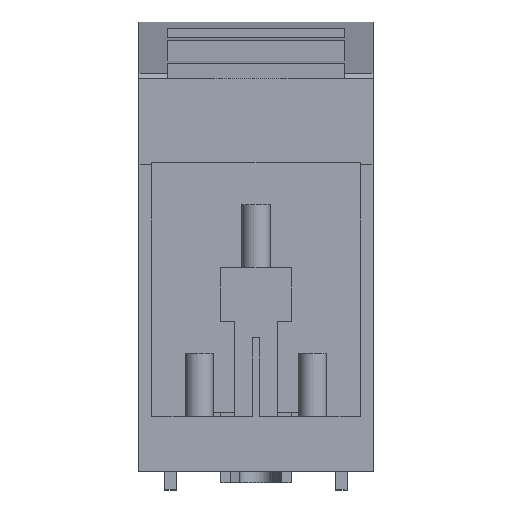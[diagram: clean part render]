
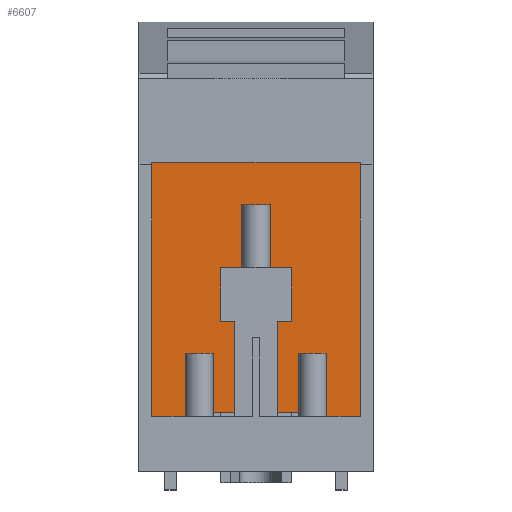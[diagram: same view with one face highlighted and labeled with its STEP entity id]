
A CAD part, front view. The second image highlights one B-rep face of the part: STEP entity #6607.
In plain terms, the highlighted planar face has unit normal (0, -1, 0).
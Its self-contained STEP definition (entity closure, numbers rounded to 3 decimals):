
#1 = CARTESIAN_POINT ( 'NONE',  ( -9., -233., 31.5 ) ) ;
#23 = LINE ( 'NONE', #439, #4846 ) ;
#42 = LINE ( 'NONE', #3957, #3307 ) ;
#92 = CARTESIAN_POINT ( 'NONE',  ( 30., -233., 33. ) ) ;
#183 = LINE ( 'NONE', #3961, #3627 ) ;
#228 = CARTESIAN_POINT ( 'NONE',  ( -44.5, -233., 31.5 ) ) ;
#254 = DIRECTION ( 'NONE',  ( -1., 0., 0. ) ) ;
#402 = ORIENTED_EDGE ( 'NONE', *, *, #1551, .T. ) ;
#439 = CARTESIAN_POINT ( 'NONE',  ( -44.5, -233., 140. ) ) ;
#440 = EDGE_CURVE ( 'NONE', #1184, #1215, #860, .T. ) ;
#519 = LINE ( 'NONE', #6385, #6202 ) ;
#576 = CARTESIAN_POINT ( 'NONE',  ( -15., -233., 95. ) ) ;
#718 = LINE ( 'NONE', #5037, #4143 ) ;
#721 = ORIENTED_EDGE ( 'NONE', *, *, #4838, .T. ) ;
#814 = CARTESIAN_POINT ( 'NONE',  ( -30., -233., 31.5 ) ) ;
#860 = LINE ( 'NONE', #6748, #2837 ) ;
#1083 = DIRECTION ( 'NONE',  ( 0., -1., 0. ) ) ;
#1086 = EDGE_CURVE ( 'NONE', #6510, #1929, #6608, .T. ) ;
#1135 = VECTOR ( 'NONE', #1603, 1000. ) ;
#1184 = VERTEX_POINT ( 'NONE', #1622 ) ;
#1215 = VERTEX_POINT ( 'NONE', #3288 ) ;
#1230 = DIRECTION ( 'NONE',  ( 0., 0., -1. ) ) ;
#1294 = CARTESIAN_POINT ( 'NONE',  ( -9., -233., 72. ) ) ;
#1309 = LINE ( 'NONE', #3501, #5010 ) ;
#1315 = VERTEX_POINT ( 'NONE', #3975 ) ;
#1333 = DIRECTION ( 'NONE',  ( 1., 0., 0. ) ) ;
#1457 = ORIENTED_EDGE ( 'NONE', *, *, #6422, .T. ) ;
#1491 = ORIENTED_EDGE ( 'NONE', *, *, #4314, .T. ) ;
#1548 = LINE ( 'NONE', #6298, #2486 ) ;
#1551 = EDGE_CURVE ( 'NONE', #1215, #3822, #4901, .T. ) ;
#1603 = DIRECTION ( 'NONE',  ( 0., 0., 1. ) ) ;
#1610 = ORIENTED_EDGE ( 'NONE', *, *, #5647, .T. ) ;
#1622 = CARTESIAN_POINT ( 'NONE',  ( 30., -233., 31.5 ) ) ;
#1630 = ORIENTED_EDGE ( 'NONE', *, *, #4685, .T. ) ;
#1644 = DIRECTION ( 'NONE',  ( 0., 0., -1. ) ) ;
#1739 = ORIENTED_EDGE ( 'NONE', *, *, #4916, .F. ) ;
#1787 = DIRECTION ( 'NONE',  ( 0., 0., -1. ) ) ;
#1929 = VERTEX_POINT ( 'NONE', #4623 ) ;
#1957 = EDGE_CURVE ( 'NONE', #2191, #5468, #1548, .T. ) ;
#2057 = CARTESIAN_POINT ( 'NONE',  ( -9., -233., 72. ) ) ;
#2137 = VERTEX_POINT ( 'NONE', #4959 ) ;
#2138 = LINE ( 'NONE', #5071, #2649 ) ;
#2172 = ORIENTED_EDGE ( 'NONE', *, *, #1957, .T. ) ;
#2191 = VERTEX_POINT ( 'NONE', #576 ) ;
#2212 = EDGE_CURVE ( 'NONE', #3737, #1184, #6600, .T. ) ;
#2224 = ORIENTED_EDGE ( 'NONE', *, *, #440, .T. ) ;
#2277 = DIRECTION ( 'NONE',  ( -1., 0., 0. ) ) ;
#2285 = EDGE_CURVE ( 'NONE', #5468, #2137, #2138, .T. ) ;
#2348 = VERTEX_POINT ( 'NONE', #4020 ) ;
#2361 = VERTEX_POINT ( 'NONE', #1294 ) ;
#2380 = VECTOR ( 'NONE', #4528, 1000. ) ;
#2425 = VERTEX_POINT ( 'NONE', #228 ) ;
#2486 = VECTOR ( 'NONE', #1333, 1000. ) ;
#2553 = CARTESIAN_POINT ( 'NONE',  ( 30., -233., 33. ) ) ;
#2585 = FACE_OUTER_BOUND ( 'NONE', #5925, .T. ) ;
#2607 = LINE ( 'NONE', #2057, #4309 ) ;
#2620 = VECTOR ( 'NONE', #2834, 1000. ) ;
#2649 = VECTOR ( 'NONE', #1787, 1000. ) ;
#2834 = DIRECTION ( 'NONE',  ( -1., 0., 0. ) ) ;
#2837 = VECTOR ( 'NONE', #3463, 1000. ) ;
#2873 = EDGE_CURVE ( 'NONE', #2425, #5555, #6084, .T. ) ;
#2944 = ORIENTED_EDGE ( 'NONE', *, *, #3587, .F. ) ;
#3288 = CARTESIAN_POINT ( 'NONE',  ( 44.5, -233., 31.5 ) ) ;
#3307 = VECTOR ( 'NONE', #1230, 1000. ) ;
#3337 = VECTOR ( 'NONE', #6898, 1000. ) ;
#3344 = DIRECTION ( 'NONE',  ( 0., 0., 1. ) ) ;
#3396 = VERTEX_POINT ( 'NONE', #5522 ) ;
#3463 = DIRECTION ( 'NONE',  ( 1., 0., 0. ) ) ;
#3501 = CARTESIAN_POINT ( 'NONE',  ( 44.5, -233., 140. ) ) ;
#3587 = EDGE_CURVE ( 'NONE', #1929, #5555, #42, .T. ) ;
#3627 = VECTOR ( 'NONE', #2277, 1000. ) ;
#3737 = VERTEX_POINT ( 'NONE', #5487 ) ;
#3776 = EDGE_CURVE ( 'NONE', #2137, #1315, #6571, .T. ) ;
#3822 = VERTEX_POINT ( 'NONE', #6063 ) ;
#3920 = ORIENTED_EDGE ( 'NONE', *, *, #2873, .T. ) ;
#3953 = CARTESIAN_POINT ( 'NONE',  ( -15., -233., 72. ) ) ;
#3957 = CARTESIAN_POINT ( 'NONE',  ( -30., -233., 33. ) ) ;
#3961 = CARTESIAN_POINT ( 'NONE',  ( 30., -233., 33. ) ) ;
#3975 = CARTESIAN_POINT ( 'NONE',  ( 9., -233., 72. ) ) ;
#4020 = CARTESIAN_POINT ( 'NONE',  ( -44.5, -233., 140. ) ) ;
#4094 = VECTOR ( 'NONE', #5651, 1000. ) ;
#4143 = VECTOR ( 'NONE', #3344, 1000. ) ;
#4144 = ORIENTED_EDGE ( 'NONE', *, *, #2285, .T. ) ;
#4309 = VECTOR ( 'NONE', #7024, 1000. ) ;
#4314 = EDGE_CURVE ( 'NONE', #6799, #2191, #718, .T. ) ;
#4316 = CARTESIAN_POINT ( 'NONE',  ( -9., -233., 33. ) ) ;
#4384 = CARTESIAN_POINT ( 'NONE',  ( 15., -233., 72. ) ) ;
#4528 = DIRECTION ( 'NONE',  ( 1., 0., 0. ) ) ;
#4623 = CARTESIAN_POINT ( 'NONE',  ( -30., -233., 33. ) ) ;
#4685 = EDGE_CURVE ( 'NONE', #2361, #6799, #2607, .T. ) ;
#4722 = EDGE_CURVE ( 'NONE', #2348, #2425, #23, .T. ) ;
#4794 = DIRECTION ( 'NONE',  ( 0., 0., -1. ) ) ;
#4838 = EDGE_CURVE ( 'NONE', #6510, #2361, #6639, .T. ) ;
#4846 = VECTOR ( 'NONE', #6316, 1000. ) ;
#4865 = PLANE ( 'NONE',  #5768 ) ;
#4898 = ORIENTED_EDGE ( 'NONE', *, *, #1086, .F. ) ;
#4901 = LINE ( 'NONE', #6853, #3337 ) ;
#4916 = EDGE_CURVE ( 'NONE', #3737, #3396, #183, .T. ) ;
#4959 = CARTESIAN_POINT ( 'NONE',  ( 15., -233., 72. ) ) ;
#5010 = VECTOR ( 'NONE', #254, 1000. ) ;
#5037 = CARTESIAN_POINT ( 'NONE',  ( -15., -233., 72. ) ) ;
#5040 = CARTESIAN_POINT ( 'NONE',  ( -44.5, -233., 31.5 ) ) ;
#5071 = CARTESIAN_POINT ( 'NONE',  ( 15., -233., 95. ) ) ;
#5368 = ORIENTED_EDGE ( 'NONE', *, *, #3776, .T. ) ;
#5468 = VERTEX_POINT ( 'NONE', #6140 ) ;
#5487 = CARTESIAN_POINT ( 'NONE',  ( 30., -233., 33. ) ) ;
#5522 = CARTESIAN_POINT ( 'NONE',  ( 9., -233., 33. ) ) ;
#5555 = VERTEX_POINT ( 'NONE', #814 ) ;
#5607 = ORIENTED_EDGE ( 'NONE', *, *, #2212, .T. ) ;
#5647 = EDGE_CURVE ( 'NONE', #3822, #2348, #1309, .T. ) ;
#5651 = DIRECTION ( 'NONE',  ( 0., 0., -1. ) ) ;
#5768 = AXIS2_PLACEMENT_3D ( 'NONE', #6560, #1083, #1644 ) ;
#5877 = DIRECTION ( 'NONE',  ( -1., 0., 0. ) ) ;
#5925 = EDGE_LOOP ( 'NONE', ( #5607, #2224, #402, #1610, #6920, #3920, #2944, #4898, #721, #1630, #1491, #2172, #4144, #5368, #1457, #1739 ) ) ;
#6063 = CARTESIAN_POINT ( 'NONE',  ( 44.5, -233., 140. ) ) ;
#6084 = LINE ( 'NONE', #5040, #2380 ) ;
#6140 = CARTESIAN_POINT ( 'NONE',  ( 15., -233., 95. ) ) ;
#6202 = VECTOR ( 'NONE', #4794, 1000. ) ;
#6298 = CARTESIAN_POINT ( 'NONE',  ( -15., -233., 95. ) ) ;
#6316 = DIRECTION ( 'NONE',  ( 0., 0., -1. ) ) ;
#6385 = CARTESIAN_POINT ( 'NONE',  ( 9., -233., 72. ) ) ;
#6422 = EDGE_CURVE ( 'NONE', #1315, #3396, #519, .T. ) ;
#6510 = VERTEX_POINT ( 'NONE', #4316 ) ;
#6531 = VECTOR ( 'NONE', #5877, 1000. ) ;
#6560 = CARTESIAN_POINT ( 'NONE',  ( 0., -233., 0. ) ) ;
#6571 = LINE ( 'NONE', #4384, #2620 ) ;
#6600 = LINE ( 'NONE', #92, #4094 ) ;
#6607 = ADVANCED_FACE ( 'NONE', ( #2585 ), #4865, .T. ) ;
#6608 = LINE ( 'NONE', #2553, #6531 ) ;
#6639 = LINE ( 'NONE', #1, #1135 ) ;
#6748 = CARTESIAN_POINT ( 'NONE',  ( 9., -233., 31.5 ) ) ;
#6799 = VERTEX_POINT ( 'NONE', #3953 ) ;
#6853 = CARTESIAN_POINT ( 'NONE',  ( 44.5, -233., 31.5 ) ) ;
#6898 = DIRECTION ( 'NONE',  ( 0., 0., 1. ) ) ;
#6920 = ORIENTED_EDGE ( 'NONE', *, *, #4722, .T. ) ;
#7024 = DIRECTION ( 'NONE',  ( -1., 0., 0. ) ) ;
